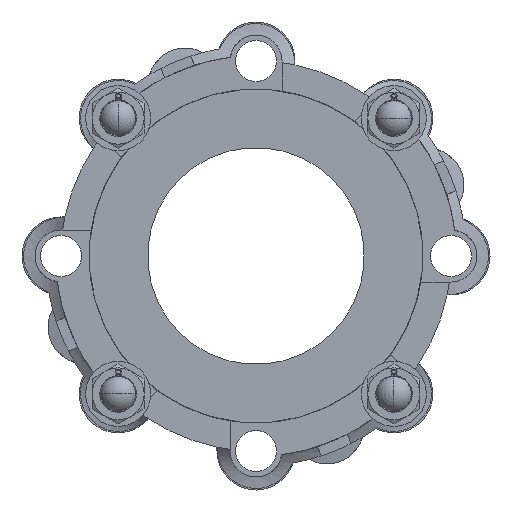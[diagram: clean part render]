
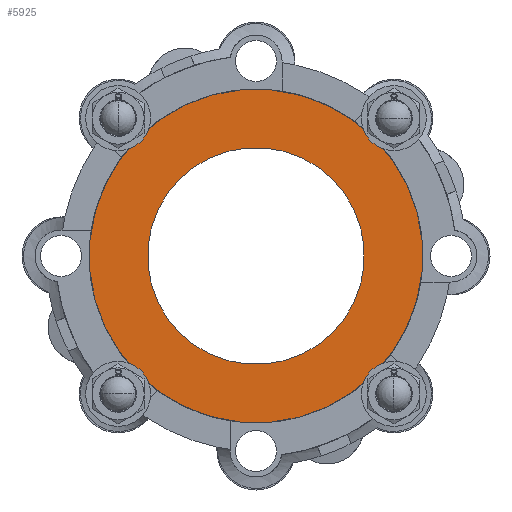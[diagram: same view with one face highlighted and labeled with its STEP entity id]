
A CAD part, front view. The second image highlights one B-rep face of the part: STEP entity #5925.
In plain terms, the highlighted planar face has unit normal (0, -1, 0) as drawn and (0, 1, 0) by its records, which use the part's own axes.
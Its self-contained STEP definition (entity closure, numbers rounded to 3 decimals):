
#3467=CARTESIAN_POINT('',(0.,0.,0.));
#3468=DIRECTION('',(0.,1.,0.));
#3469=DIRECTION('',(-0.707,0.,0.707));
#3470=AXIS2_PLACEMENT_3D('',#3467,#3468,#3469);
#3481=CARTESIAN_POINT('',(0.,0.,0.));
#3482=DIRECTION('',(0.,-1.,0.));
#3483=DIRECTION('',(-0.707,0.,0.707));
#3484=AXIS2_PLACEMENT_3D('',#3481,#3482,#3483);
#3486=CARTESIAN_POINT('',(0.,0.,0.));
#3487=DIRECTION('',(0.,1.,0.));
#3488=DIRECTION('',(-0.707,0.,0.707));
#3489=AXIS2_PLACEMENT_3D('',#3486,#3487,#3488);
#3491=CARTESIAN_POINT('',(0.,0.,0.));
#3492=DIRECTION('',(0.,1.,0.));
#3493=DIRECTION('',(-0.707,0.,-0.707));
#3494=AXIS2_PLACEMENT_3D('',#3491,#3492,#3493);
#4557=CARTESIAN_POINT('',(-35.355,0.,-35.355));
#4559=VERTEX_POINT('',#4557);
#4561=CARTESIAN_POINT('',(-35.355,0.,35.355));
#4563=VERTEX_POINT('',#4561);
#4857=CARTESIAN_POINT('',(-54.447,0.,-54.447));
#4859=VERTEX_POINT('',#4857);
#4861=CARTESIAN_POINT('',(-54.447,0.,54.447));
#4863=VERTEX_POINT('',#4861);
#5912=CARTESIAN_POINT('',(0.,0.,0.));
#5913=DIRECTION('',(0.,-1.,0.));
#5914=DIRECTION('',(0.,0.,1.));
#5915=AXIS2_PLACEMENT_3D('',#5912,#5913,#5914);
#5916=PLANE('',#5915);
#5917=ORIENTED_EDGE('',*,*,#5887,.F.);
#5918=ORIENTED_EDGE('',*,*,#5898,.T.);
#5919=EDGE_LOOP('',(#5917,#5918));
#5920=FACE_OUTER_BOUND('',#5919,.F.);
#5921=ORIENTED_EDGE('',*,*,#4976,.T.);
#5922=ORIENTED_EDGE('',*,*,#4994,.T.);
#5923=EDGE_LOOP('',(#5921,#5922));
#5924=FACE_BOUND('',#5923,.F.);
#5925=ADVANCED_FACE('',(#5920,#5924),#5916,.F.);
#3471=CIRCLE('',#3470,77.);
#3485=CIRCLE('',#3484,77.);
#3490=CIRCLE('',#3489,50.);
#3495=CIRCLE('',#3494,50.);
#4976=EDGE_CURVE('',#4563,#4559,#3490,.T.);
#4994=EDGE_CURVE('',#4559,#4563,#3495,.T.);
#5887=EDGE_CURVE('',#4863,#4859,#3471,.T.);
#5898=EDGE_CURVE('',#4863,#4859,#3485,.T.);
